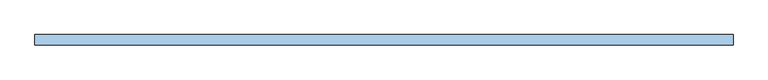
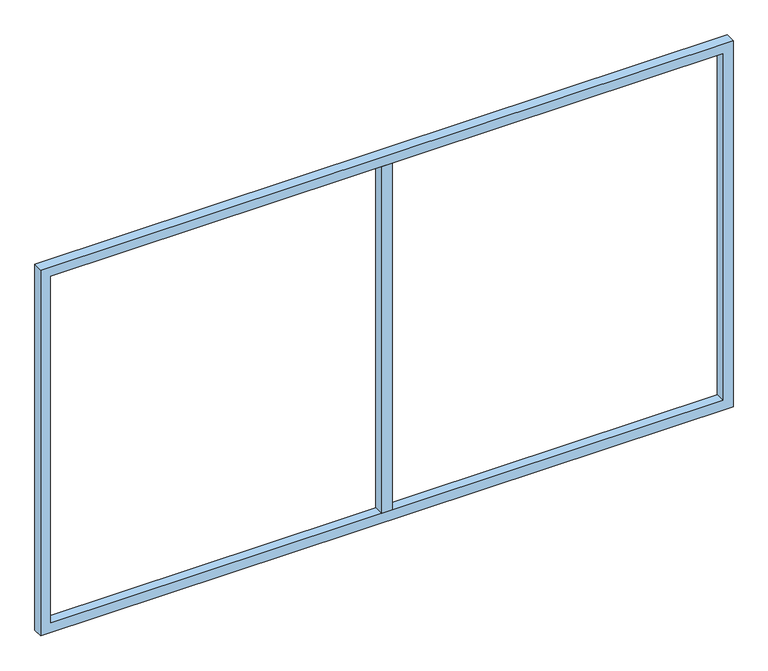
"""IFC4 building model written with IfcOpenShell, lengths in millimetres: window geometry, 2_07_Окно_Рама-1 : Тип 1."""

from ifc_helpers import new_model, si_unit, frame, origin, place, context, project, spatial, polyline, outline, extrude, source, transform, mapped, element, save


def window_8130281b(model_context):
    return source(origin(), model_context, "Body", "SweptSolid", [
        extrude(outline(polyline([(140.0, 125.0), (140.0, 95.0), (110.0, 95.0), (110.0, 125.0), (140.0, 125.0)])), frame((0.0, 0.0, 960.0), z_axis=(0.0, 0.0, 1.0), x_axis=(1.0, 0.0, 0.0)), (0.0, 0.0, 1.0), 1080.0),
        extrude(outline(polyline([(2070.0, 1145.0), (2070.0, -895.0), (930.0, -895.0), (930.0, 1145.0), (2070.0, 1145.0)]), holes=[polyline([(960.0, 1115.0), (960.0, -865.0), (2040.0, -865.0), (2040.0, 1115.0), (960.0, 1115.0)])]), frame((0.0, 95.0, 0.0), z_axis=(0.0, 1.0, 0.0), x_axis=(0.0, 0.0, 1.0)), (0.0, 0.0, 1.0), 30.0),
    ])


if __name__ == "__main__":
    model = new_model("IFC4")
    model_context = context("Model", 3, world=origin())
    ifc_project = project(units=[si_unit("LENGTHUNIT", "METRE", prefix="MILLI")], contexts=[model_context])
    site = spatial("IfcSite", under=ifc_project)
    building = spatial("IfcBuilding", under=site)
    placement = place(None, origin())
    window_shape = window_8130281b(model_context)
    element("IfcWindow", 1, ObjectType="2_07_Окно_Рама-1 : Тип 1", at=placement, inside=building, context=model_context, shape_type="MappedRepresentation", body=[
        mapped(window_shape, transform((0.0, 0.0, 0.0), x_axis=(1.0, 0.0, 0.0), y_axis=(0.0, 1.0, 0.0), z_axis=(0.0, 0.0, 1.0))),
    ])
    save(model, "model.ifc")
